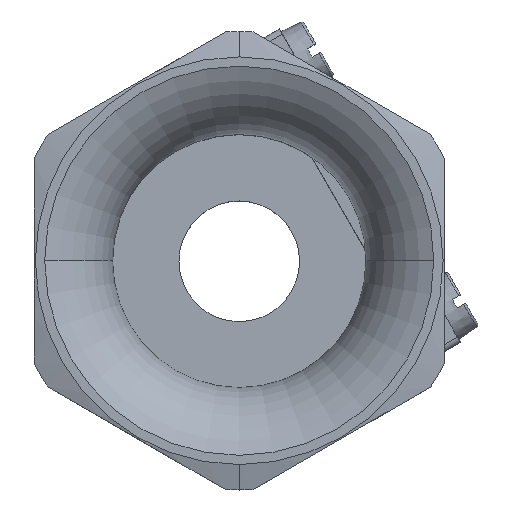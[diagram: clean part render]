
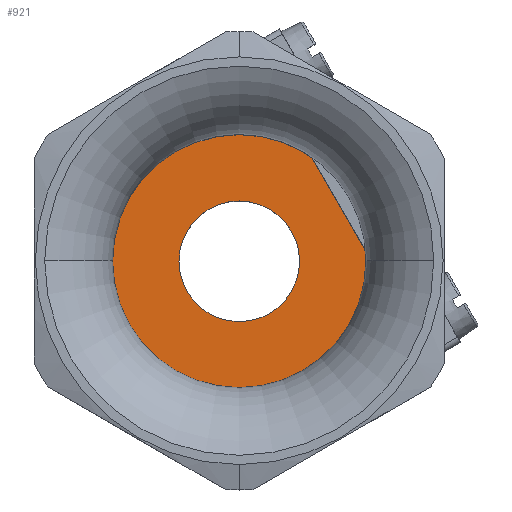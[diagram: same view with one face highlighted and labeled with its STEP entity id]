
A CAD part, top view. The second image highlights one B-rep face of the part: STEP entity #921.
In plain terms, the highlighted planar face has unit normal (0, 0, 1).
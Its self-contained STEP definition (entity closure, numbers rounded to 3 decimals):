
#190 = VERTEX_POINT ( 'NONE', #4510 ) ;
#194 = EDGE_CURVE ( 'NONE', #190, #195, #4528, .T. ) ;
#195 = VERTEX_POINT ( 'NONE', #4529 ) ;
#205 = VERTEX_POINT ( 'NONE', #4661 ) ;
#220 = EDGE_CURVE ( 'NONE', #205, #279, #4638, .T. ) ;
#279 = VERTEX_POINT ( 'NONE', #1372 ) ;
#907 = EDGE_CURVE ( 'NONE', #195, #190, #2223, .T. ) ;
#908 = ORIENTED_EDGE ( 'NONE', *, *, #907, .T. ) ;
#909 = EDGE_LOOP ( 'NONE', ( #1005, #993 ) ) ;
#915 = EDGE_LOOP ( 'NONE', ( #908, #917 ) ) ;
#917 = ORIENTED_EDGE ( 'NONE', *, *, #194, .T. ) ;
#921 = ADVANCED_FACE ( 'NONE', ( #2208, #2207 ), #2206, .T. ) ;
#993 = ORIENTED_EDGE ( 'NONE', *, *, #220, .F. ) ;
#1005 = ORIENTED_EDGE ( 'NONE', *, *, #1006, .F. ) ;
#1006 = EDGE_CURVE ( 'NONE', #279, #205, #2430, .T. ) ;
#1372 = CARTESIAN_POINT ( 'NONE',  ( 5., 0., -5.5 ) ) ;
#2205 = AXIS2_PLACEMENT_3D ( 'NONE', #2266, #2265, #2264 ) ;
#2206 = PLANE ( 'NONE',  #2205 ) ;
#2207 = FACE_BOUND ( 'NONE', #909, .T. ) ;
#2208 = FACE_OUTER_BOUND ( 'NONE', #915, .T. ) ;
#2219 = DIRECTION ( 'NONE',  ( 1., 0., 0. ) ) ;
#2220 = DIRECTION ( 'NONE',  ( 0., 0., 1. ) ) ;
#2221 = CARTESIAN_POINT ( 'NONE',  ( 0., 0., -5.5 ) ) ;
#2222 = AXIS2_PLACEMENT_3D ( 'NONE', #2221, #2220, #2219 ) ;
#2223 = CIRCLE ( 'NONE', #2222, 10.5 ) ;
#2264 = DIRECTION ( 'NONE',  ( 1., 0., 0. ) ) ;
#2265 = DIRECTION ( 'NONE',  ( 0., 0., 1. ) ) ;
#2266 = CARTESIAN_POINT ( 'NONE',  ( 0., 5., -5.5 ) ) ;
#2415 = DIRECTION ( 'NONE',  ( 1., 0., 0. ) ) ;
#2416 = DIRECTION ( 'NONE',  ( 0., 0., 1. ) ) ;
#2417 = CARTESIAN_POINT ( 'NONE',  ( 0., 0., -5.5 ) ) ;
#2418 = AXIS2_PLACEMENT_3D ( 'NONE', #2417, #2416, #2415 ) ;
#2430 = CIRCLE ( 'NONE', #2418, 5. ) ;
#4510 = CARTESIAN_POINT ( 'NONE',  ( -10.5, 0., -5.5 ) ) ;
#4524 = DIRECTION ( 'NONE',  ( 1., 0., 0. ) ) ;
#4525 = DIRECTION ( 'NONE',  ( 0., 0., 1. ) ) ;
#4526 = CARTESIAN_POINT ( 'NONE',  ( 0., 0., -5.5 ) ) ;
#4527 = AXIS2_PLACEMENT_3D ( 'NONE', #4526, #4525, #4524 ) ;
#4528 = CIRCLE ( 'NONE', #4527, 10.5 ) ;
#4529 = CARTESIAN_POINT ( 'NONE',  ( 10.5, 0., -5.5 ) ) ;
#4625 = DIRECTION ( 'NONE',  ( 1., 0., 0. ) ) ;
#4632 = DIRECTION ( 'NONE',  ( 0., 0., 1. ) ) ;
#4633 = CARTESIAN_POINT ( 'NONE',  ( 0., 0., -5.5 ) ) ;
#4637 = AXIS2_PLACEMENT_3D ( 'NONE', #4633, #4632, #4625 ) ;
#4638 = CIRCLE ( 'NONE', #4637, 5. ) ;
#4661 = CARTESIAN_POINT ( 'NONE',  ( -5., 0., -5.5 ) ) ;
